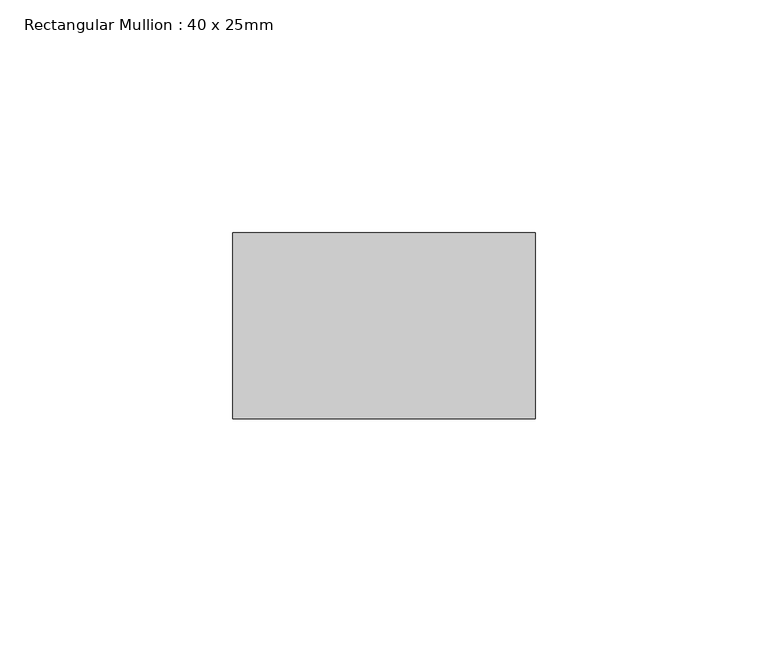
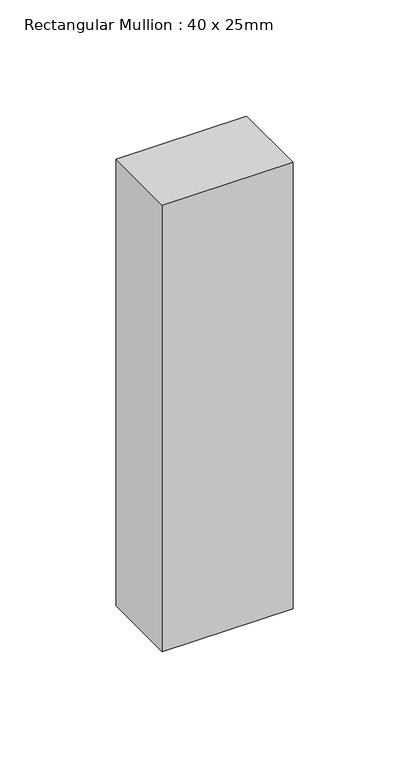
"""IFC4 building model written with IfcOpenShell, lengths in millimetres: member geometry, Rectangular Mullion : 40 x 25mm."""

from ifc_helpers import new_model, si_unit, frame, origin, place, context, project, spatial, polyline, outline, extrude, source, transform, mapped, element, save


def rectangular_mullion_40_x_25mm_dad9a7be(model_context):
    return source(origin(), model_context, "Body", "SweptSolid", [
        extrude(outline(polyline([(0.0, -20.0), (0.0, -60.0), (-65.0, -60.0), (-65.0, -20.0), (0.0, -20.0)])), frame((0.0, 0.0, -235.0), z_axis=(0.0, 0.0, 1.0), x_axis=(1.0, 0.0, 0.0)), (0.0, 0.0, 1.0), 235.0),
    ])


if __name__ == "__main__":
    model = new_model("IFC4")
    model_context = context("Model", 3, world=origin())
    ifc_project = project(units=[si_unit("LENGTHUNIT", "METRE", prefix="MILLI")], contexts=[model_context])
    site = spatial("IfcSite", under=ifc_project)
    building = spatial("IfcBuilding", under=site)
    placement = place(None, origin())
    rectangular_mullion_40_x_25mm_shape = rectangular_mullion_40_x_25mm_dad9a7be(model_context)
    element("IfcMember", 1, ObjectType="Rectangular Mullion : 40 x 25mm", at=placement, inside=building, context=model_context, shape_type="MappedRepresentation", body=[
        mapped(rectangular_mullion_40_x_25mm_shape, transform((0.0, 0.0, 0.0), x_axis=(1.0, 0.0, 0.0), y_axis=(0.0, 1.0, 0.0), z_axis=(0.0, 0.0, 1.0))),
    ])
    save(model, "model.ifc")
